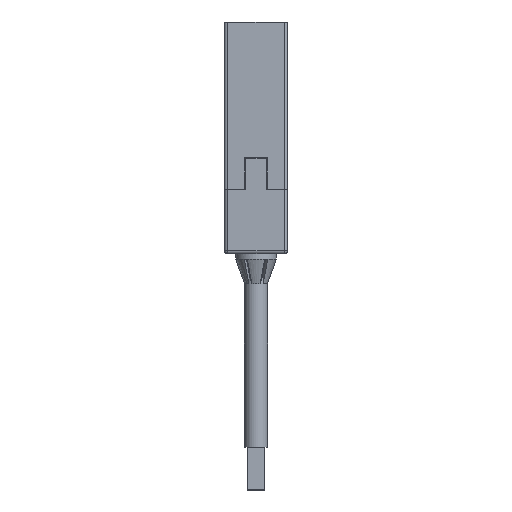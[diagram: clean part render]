
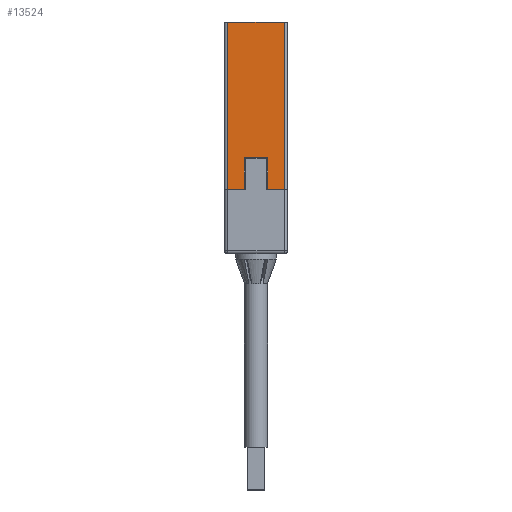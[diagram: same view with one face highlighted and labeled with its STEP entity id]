
A CAD part, top view. The second image highlights one B-rep face of the part: STEP entity #13524.
In plain terms, the highlighted planar face has unit normal (0, 0, 1).
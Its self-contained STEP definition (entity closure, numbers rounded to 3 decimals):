
#64 = LINE ( 'NONE', #13596, #8424 ) ;
#442 = VECTOR ( 'NONE', #13670, 1000. ) ;
#465 = LINE ( 'NONE', #9553, #18528 ) ;
#1348 = ORIENTED_EDGE ( 'NONE', *, *, #11142, .F. ) ;
#1514 = CARTESIAN_POINT ( 'NONE',  ( -120.221, -3.982, 342. ) ) ;
#1733 = VECTOR ( 'NONE', #14570, 1000. ) ;
#1785 = EDGE_CURVE ( 'NONE', #8666, #7180, #64, .T. ) ;
#2188 = LINE ( 'NONE', #19689, #4088 ) ;
#2535 = CARTESIAN_POINT ( 'NONE',  ( -120.221, -12.882, 342. ) ) ;
#2705 = CARTESIAN_POINT ( 'NONE',  ( -113.721, -12.882, 342. ) ) ;
#3272 = DIRECTION ( 'NONE',  ( 0., 1., 0. ) ) ;
#4088 = VECTOR ( 'NONE', #14550, 1000. ) ;
#4188 = DIRECTION ( 'NONE',  ( 0., 1., 0. ) ) ;
#4276 = CARTESIAN_POINT ( 'NONE',  ( -124.971, 34.218, 342. ) ) ;
#4343 = EDGE_CURVE ( 'NONE', #20439, #7180, #20751, .T. ) ;
#5425 = ORIENTED_EDGE ( 'NONE', *, *, #17821, .F. ) ;
#5437 = AXIS2_PLACEMENT_3D ( 'NONE', #19974, #11375, #6046 ) ;
#6046 = DIRECTION ( 'NONE',  ( 0., 1., 0. ) ) ;
#6430 = EDGE_CURVE ( 'NONE', #8666, #16100, #2188, .T. ) ;
#7021 = VECTOR ( 'NONE', #19783, 1000. ) ;
#7180 = VERTEX_POINT ( 'NONE', #1514 ) ;
#7989 = LINE ( 'NONE', #21511, #15778 ) ;
#8424 = VECTOR ( 'NONE', #3272, 1000. ) ;
#8467 = ORIENTED_EDGE ( 'NONE', *, *, #18525, .F. ) ;
#8666 = VERTEX_POINT ( 'NONE', #2535 ) ;
#8718 = CARTESIAN_POINT ( 'NONE',  ( -125.971, 34.218, 342. ) ) ;
#8833 = ORIENTED_EDGE ( 'NONE', *, *, #18093, .T. ) ;
#9553 = CARTESIAN_POINT ( 'NONE',  ( -116.971, -12.882, 342. ) ) ;
#9563 = CARTESIAN_POINT ( 'NONE',  ( -108.971, 32.018, 342. ) ) ;
#9723 = LINE ( 'NONE', #9563, #22107 ) ;
#9795 = DIRECTION ( 'NONE',  ( 0., -1., 0. ) ) ;
#9823 = CARTESIAN_POINT ( 'NONE',  ( -108.971, -12.882, 342. ) ) ;
#10269 = CARTESIAN_POINT ( 'NONE',  ( -108.971, 34.218, 342. ) ) ;
#10622 = VERTEX_POINT ( 'NONE', #9823 ) ;
#10646 = LINE ( 'NONE', #19712, #1733 ) ;
#10813 = VERTEX_POINT ( 'NONE', #10269 ) ;
#11142 = EDGE_CURVE ( 'NONE', #10813, #10622, #9723, .T. ) ;
#11300 = PLANE ( 'NONE',  #5437 ) ;
#11375 = DIRECTION ( 'NONE',  ( 0., 0., -1. ) ) ;
#13060 = CARTESIAN_POINT ( 'NONE',  ( -113.721, -3.982, 342. ) ) ;
#13524 = ADVANCED_FACE ( 'NONE', ( #18814 ), #11300, .F. ) ;
#13596 = CARTESIAN_POINT ( 'NONE',  ( -120.221, -16.982, 342. ) ) ;
#13607 = VERTEX_POINT ( 'NONE', #2705 ) ;
#13670 = DIRECTION ( 'NONE',  ( -1., 0., 0. ) ) ;
#14022 = VERTEX_POINT ( 'NONE', #4276 ) ;
#14250 = EDGE_CURVE ( 'NONE', #13607, #20439, #10646, .T. ) ;
#14550 = DIRECTION ( 'NONE',  ( -1., 0., 0. ) ) ;
#14570 = DIRECTION ( 'NONE',  ( 0., 1., 0. ) ) ;
#14983 = CARTESIAN_POINT ( 'NONE',  ( -124.971, -12.882, 342. ) ) ;
#15129 = EDGE_LOOP ( 'NONE', ( #15585, #5425, #1348, #8833, #8467, #19763, #21182, #16009 ) ) ;
#15585 = ORIENTED_EDGE ( 'NONE', *, *, #14250, .F. ) ;
#15778 = VECTOR ( 'NONE', #4188, 1000. ) ;
#16009 = ORIENTED_EDGE ( 'NONE', *, *, #4343, .F. ) ;
#16100 = VERTEX_POINT ( 'NONE', #14983 ) ;
#17821 = EDGE_CURVE ( 'NONE', #10622, #13607, #465, .T. ) ;
#18093 = EDGE_CURVE ( 'NONE', #10813, #14022, #18247, .T. ) ;
#18219 = DIRECTION ( 'NONE',  ( -1., 0., 0. ) ) ;
#18247 = LINE ( 'NONE', #8718, #442 ) ;
#18525 = EDGE_CURVE ( 'NONE', #16100, #14022, #7989, .T. ) ;
#18528 = VECTOR ( 'NONE', #18219, 1000. ) ;
#18814 = FACE_OUTER_BOUND ( 'NONE', #15129, .T. ) ;
#19689 = CARTESIAN_POINT ( 'NONE',  ( -116.971, -12.882, 342. ) ) ;
#19712 = CARTESIAN_POINT ( 'NONE',  ( -113.721, -16.982, 342. ) ) ;
#19763 = ORIENTED_EDGE ( 'NONE', *, *, #6430, .F. ) ;
#19783 = DIRECTION ( 'NONE',  ( -1., 0., 0. ) ) ;
#19974 = CARTESIAN_POINT ( 'NONE',  ( -125.971, 32.018, 342. ) ) ;
#20439 = VERTEX_POINT ( 'NONE', #21759 ) ;
#20751 = LINE ( 'NONE', #13060, #7021 ) ;
#21182 = ORIENTED_EDGE ( 'NONE', *, *, #1785, .T. ) ;
#21511 = CARTESIAN_POINT ( 'NONE',  ( -124.971, 32.018, 342. ) ) ;
#21759 = CARTESIAN_POINT ( 'NONE',  ( -113.721, -3.982, 342. ) ) ;
#22107 = VECTOR ( 'NONE', #9795, 1000. ) ;
